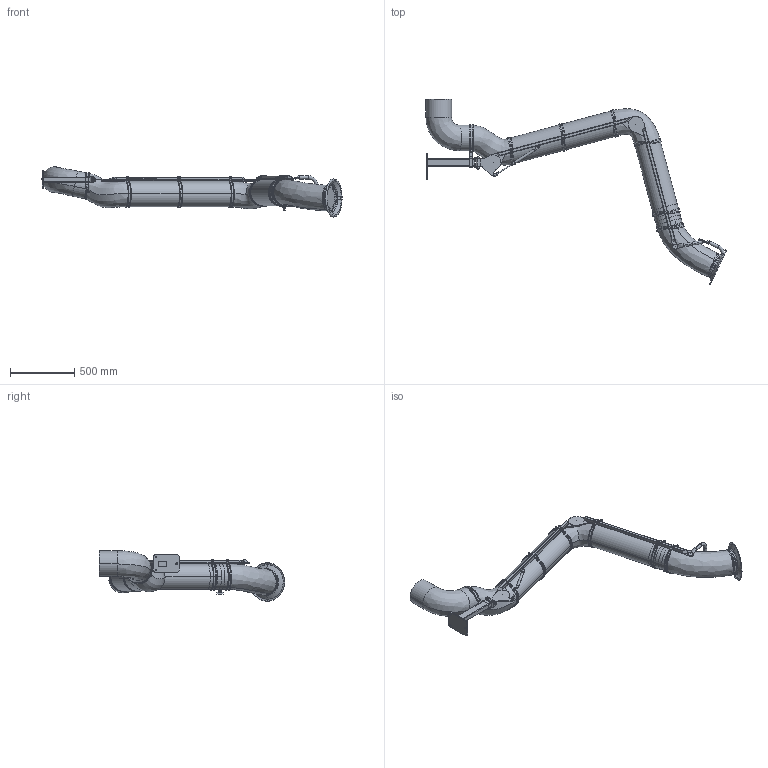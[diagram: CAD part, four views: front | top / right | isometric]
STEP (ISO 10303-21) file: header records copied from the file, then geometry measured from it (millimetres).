
FILE_DESCRIPTION((''),'2;1');
FILE_NAME('PSR_3000-200_D_EXC','2022-10-04T13:19:15',('Tomas Bellgran'),(''),'CREO PARAMETRIC BY PTC INC, 2018260','CREO PARAMETRIC BY PTC INC, 2018260','');
FILE_SCHEMA(('AUTOMOTIVE_DESIGN { 1 0 10303 214 1 1 1 1 }'));
Length unit declared in the file: millimetre
Products named in the file (46): 141558; 141580; 141581; 122701; 141514; 141560; 141582; 141587; 141524; 121391; 131150; 139383; 131151; 131173; 144356; 141589; 134343_AF0; G_P136_WELD-REF; 141590; 122717_LIGHT; 120127_COMPL_LIGHT; 130317; ROD_STAB_8-160-REF; 131095; 130322_AF29; 131145; 139617; 139618; 139616; 139615; 139614; 139620; 131208; 122291; 122295; 131218; 131219; 131223; 131203; 121067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
Assembly tree (63 placements, depth 4):
  PSR_3000-200_D_EXC
    141514
      141558
      141580
      141581
      122701
    141524
      141560
      141582
      141587
    121391  x4
    131150
    131173
      139383
      131151
    144356  x2
    141590
      141589
      134343_AF0
      G_P136_WELD-REF
    122717_LIGHT
    120127_COMPL_LIGHT
    130322_AF29
      130317
      ROD_STAB_8-160-REF
      131095  x2
    131145  x2
    139620
      139617  x3
      139618
      139616
      139615
      139614
    131203
      131208
      122295
        122291
      131223
        131218
        131219
    121067
    121076
    124460  x6
    107526-11  x6
    121000_LIGHT
    107526-20
Bounding box: 2337.1 x 1443.34 x 392.91 mm (x, y, z)
Volume: 105448003.6 mm3; surface area: 3235960.2 mm2
Topology: 54 solids, 54 shells, 1260 faces, 3001 edges, 1847 vertices
Faces by surface type: plane 458, cylinder 372, bspline 254, torus 80, cone 56, extrusion 25, revolution 13, sphere 2
Entity records: 47311 total; most frequent: CARTESIAN_POINT 18073, DIRECTION 3635, ORIENTED_EDGE 3404, PRESENTATION_STYLE_ASSIGNMENT 2409, STYLED_ITEM 2382, CURVE_STYLE 1730, EDGE_CURVE 1702, AXIS2_PLACEMENT_3D 1427
